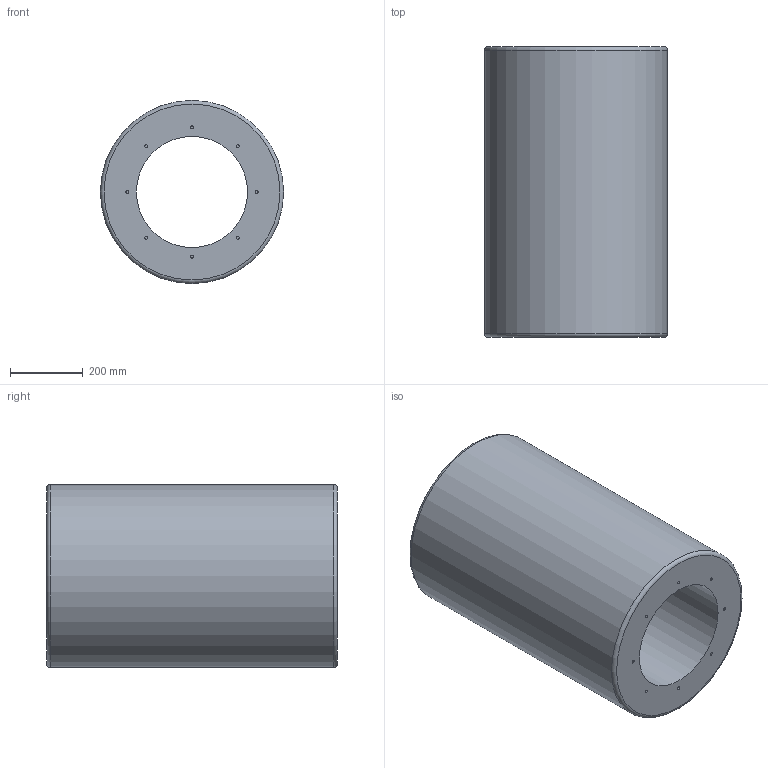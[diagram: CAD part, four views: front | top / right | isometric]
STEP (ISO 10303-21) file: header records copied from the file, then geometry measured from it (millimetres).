
FILE_DESCRIPTION(/* description */ (''),/* implementation_level */ '2;1');
FILE_NAME(/* name */ 'Z:\Output\RSD 315-800-08744-002.stp',/* time_stamp */ '2017-06-15T22:47:51+02:00',/* author */ ('Engineering1'),/* organization */ (''),/* preprocessor_version */ 'ST-DEVELOPER v16.5',/* originating_system */ 'Autodesk Inventor 2017',/* authorisation */ '');
FILE_SCHEMA (('AUTOMOTIVE_DESIGN { 1 0 10303 214 3 1 1 }'));
Length unit declared in the file: millimetre
Products named in the file (1): RSD-1
Bounding box: 504 x 800 x 504 mm (x, y, z)
Volume: 100694327.3 mm3; surface area: 2278016.9 mm2
Topology: 1 solids, 1 shells, 38 faces, 58 edges, 38 vertices
Faces by surface type: cylinder 18, plane 18, torus 2
Full cylindrical faces by diameter (mm): 8 x16, 306 x1, 504 x1
Entity records: 806 total; most frequent: DIRECTION 154, CARTESIAN_POINT 115, AXIS2_PLACEMENT_3D 77, EDGE_LOOP 76, ORIENTED_EDGE 76, FACE_BOUND 38, FACE_OUTER_BOUND 38, CIRCLE 38
